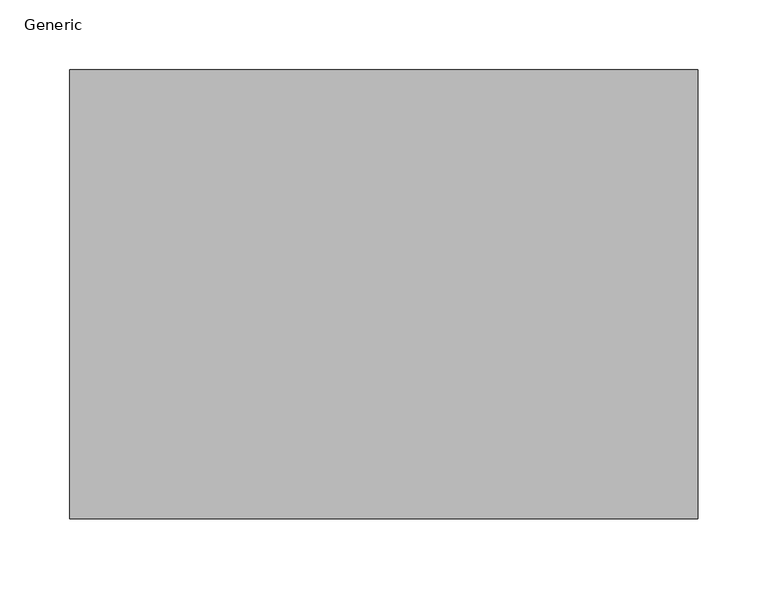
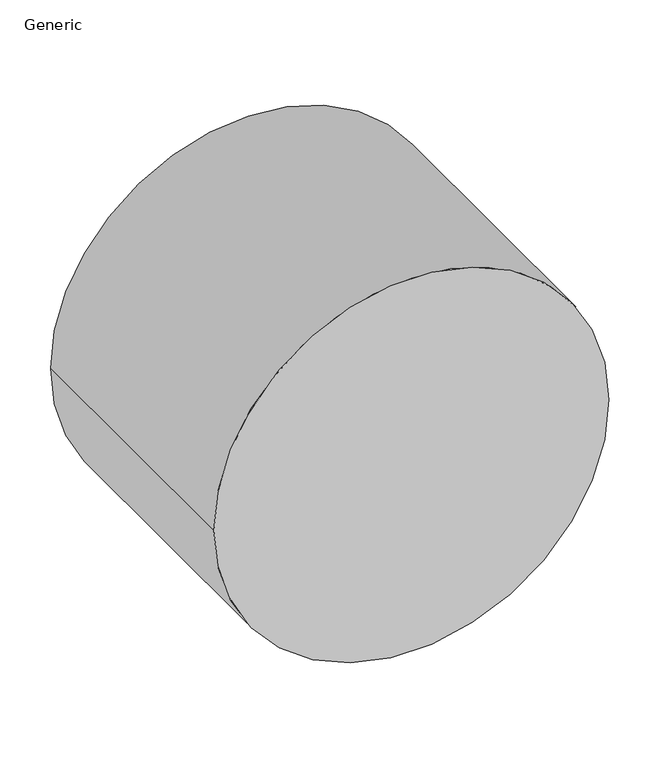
"""IFC4 building model written with IfcOpenShell, lengths in millimetres: proxy geometry, GM_Conduct : Generic."""

from ifc_helpers import new_model, si_unit, point, frame, frame_2d, origin, place, context, project, spatial, circle_curve, trimmed, segment, composite_curve, outline, extrude, source, transform, mapped, element, save


def generic_0010b177(model_context):
    return source(origin(), model_context, "Body", "SweptSolid", [
        extrude(outline(composite_curve([segment(trimmed(circle_curve(frame_2d((137.0, 0.0)), 225.0), [point((137.0, 225.0))], [point((137.0, -225.0))], False, "CARTESIAN"), True, "CONTINUOUS"), segment(trimmed(circle_curve(frame_2d((137.0, 0.0)), 225.0), [point((137.0, -225.0))], [point((137.0, 225.0))], False, "CARTESIAN"), True, "CONTINUOUS")], self_intersect=False)), frame((0.0, -321.5, 0.0), z_axis=(0.0, 1.0, 0.0), x_axis=(0.0, 0.0, 1.0)), (0.0, 0.0, 1.0), 321.5),
    ])


if __name__ == "__main__":
    model = new_model("IFC4")
    model_context = context("Model", 3, world=origin())
    ifc_project = project(units=[si_unit("LENGTHUNIT", "METRE", prefix="MILLI")], contexts=[model_context])
    site = spatial("IfcSite", under=ifc_project)
    building = spatial("IfcBuilding", under=site)
    placement = place(None, origin())
    generic_shape = generic_0010b177(model_context)
    element("IfcBuildingElementProxy", 1, Name="GM_Conduct : Generic", ObjectType="GM_Conduct : Generic", at=placement, inside=building, context=model_context, shape_type="MappedRepresentation", body=[
        mapped(generic_shape, transform((0.0, 0.0, 0.0), x_axis=(1.0, 0.0, 0.0), y_axis=(0.0, 1.0, 0.0), z_axis=(0.0, 0.0, 1.0))),
    ])
    save(model, "model.ifc")
